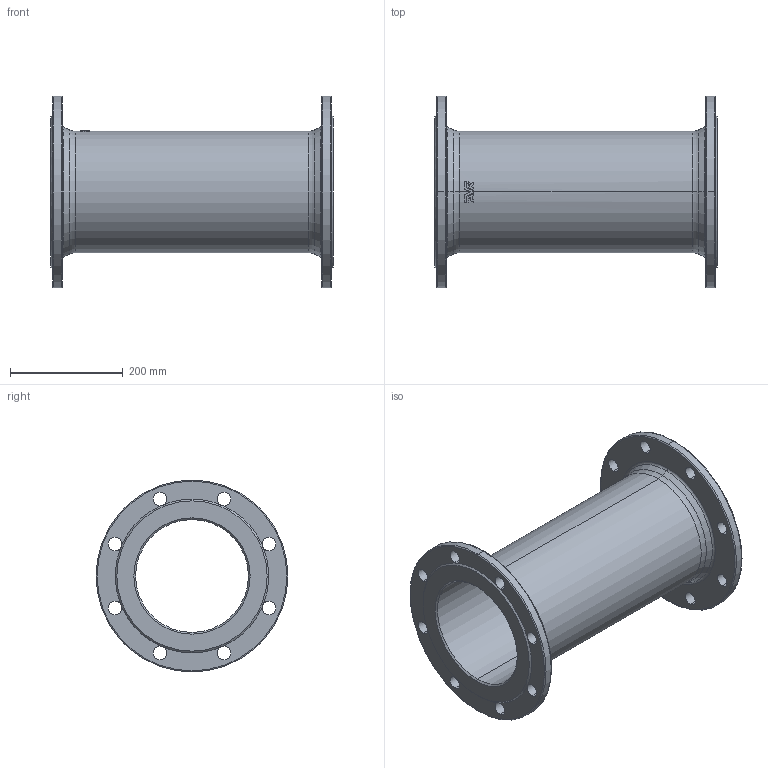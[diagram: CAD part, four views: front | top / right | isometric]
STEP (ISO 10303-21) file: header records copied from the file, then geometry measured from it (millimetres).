
FILE_DESCRIPTION (( 'STEP AP203' ), '1' );
FILE_NAME ('O_712_4810_DN200_0X_REV01.step', '2021-12-01T10:36:59', ( '' ), ( '' ), 'SwSTEP 2.0', 'SolidWorks 2019', '' );
FILE_SCHEMA (( 'CONFIG_CONTROL_DESIGN' ));
Length unit declared in the file: millimetre
Products named in the file (1): O_712_4810_DN200_0X_REV01
Bounding box: 500 x 340 x 340 mm (x, y, z)
Volume: 4401437.9 mm3; surface area: 882044.2 mm2
Topology: 1 solids, 1 shells, 116 faces, 345 edges, 222 vertices
Faces by surface type: cylinder 45, plane 24, bspline 19, torus 16, cone 12
Entity records: 5156 total; most frequent: CARTESIAN_POINT 2057, ORIENTED_EDGE 690, DIRECTION 588, EDGE_CURVE 345, AXIS2_PLACEMENT_3D 258, VERTEX_POINT 222, CIRCLE 160, EDGE_LOOP 141
